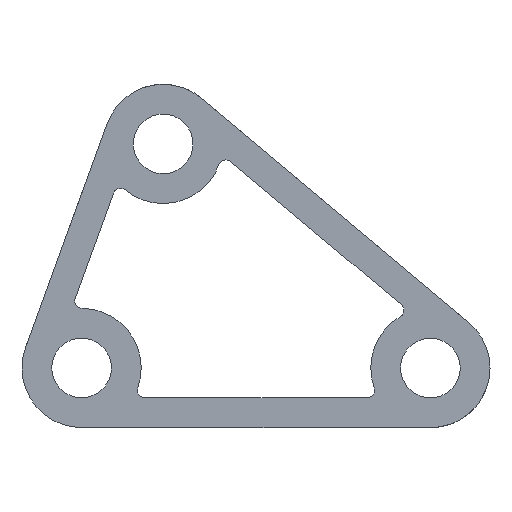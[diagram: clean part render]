
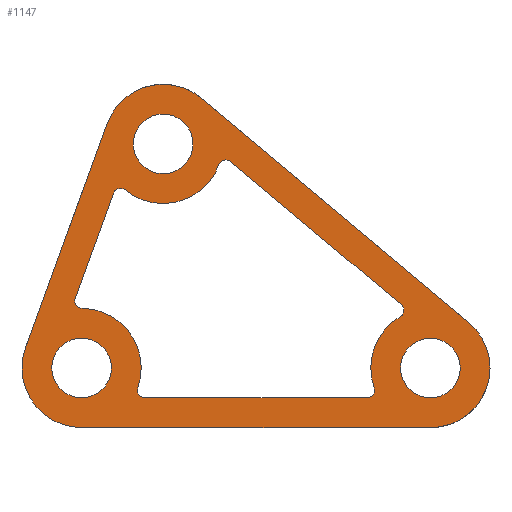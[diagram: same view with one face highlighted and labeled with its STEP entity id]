
A CAD part, left-side view. The second image highlights one B-rep face of the part: STEP entity #1147.
In plain terms, the highlighted planar face has unit normal (-1, 0, 0).
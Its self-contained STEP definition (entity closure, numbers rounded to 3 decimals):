
#50=CARTESIAN_POINT('',(0.,76.828,110.535));
#51=VERTEX_POINT('',#50);
#58=CARTESIAN_POINT('',(0.,-12.857,35.325));
#59=VERTEX_POINT('',#58);
#60=CARTESIAN_POINT('',(0.,-12.857,35.325));
#61=DIRECTION('',(0.,0.766,0.643));
#62=VECTOR('',#61,117.047);
#63=LINE('',#60,#62);
#64=EDGE_CURVE('',#59,#51,#63,.T.);
#106=CARTESIAN_POINT('',(0.,0.,0.));
#107=VERTEX_POINT('',#106);
#114=CARTESIAN_POINT('',(0.,117.047,0.035));
#115=VERTEX_POINT('',#114);
#116=CARTESIAN_POINT('',(0.,117.047,0.035));
#117=DIRECTION('',(0.,-1.,0.));
#118=VECTOR('',#117,117.047);
#119=LINE('',#116,#118);
#120=EDGE_CURVE('',#115,#107,#119,.T.);
#144=CARTESIAN_POINT('',(0.,80.283,91.79));
#145=VERTEX_POINT('',#144);
#154=CARTESIAN_POINT('',(0.,99.076,98.63));
#155=VERTEX_POINT('',#154);
#156=CARTESIAN_POINT('',(0.,89.679,95.21));
#157=DIRECTION('',(1.,0.,-0.));
#158=DIRECTION('',(0.,0.94,0.342));
#159=AXIS2_PLACEMENT_3D('',#156,#157,#158);
#160=CIRCLE('',#159,10.);
#161=EDGE_CURVE('',#155,#145,#160,.T.);
#163=CARTESIAN_POINT('',(0.,89.679,95.21));
#164=DIRECTION('',(1.,0.,-0.));
#165=DIRECTION('',(0.,0.94,0.342));
#166=AXIS2_PLACEMENT_3D('',#163,#164,#165);
#167=CIRCLE('',#166,10.);
#168=EDGE_CURVE('',#145,#155,#167,.T.);
#220=CARTESIAN_POINT('',(0.,107.644,16.614));
#221=VERTEX_POINT('',#220);
#230=CARTESIAN_POINT('',(0.,126.438,23.455));
#231=VERTEX_POINT('',#230);
#232=CARTESIAN_POINT('',(0.,117.041,20.035));
#233=DIRECTION('',(1.,0.,-0.));
#234=DIRECTION('',(0.,0.94,0.342));
#235=AXIS2_PLACEMENT_3D('',#232,#233,#234);
#236=CIRCLE('',#235,10.);
#237=EDGE_CURVE('',#231,#221,#236,.T.);
#239=CARTESIAN_POINT('',(0.,117.041,20.035));
#240=DIRECTION('',(1.,0.,-0.));
#241=DIRECTION('',(0.,0.94,0.342));
#242=AXIS2_PLACEMENT_3D('',#239,#240,#241);
#243=CIRCLE('',#242,10.);
#244=EDGE_CURVE('',#221,#231,#243,.T.);
#296=CARTESIAN_POINT('',(0.,-9.403,16.58));
#297=VERTEX_POINT('',#296);
#306=CARTESIAN_POINT('',(0.,9.391,23.42));
#307=VERTEX_POINT('',#306);
#308=CARTESIAN_POINT('',(0.,-0.006,20.));
#309=DIRECTION('',(1.,0.,-0.));
#310=DIRECTION('',(0.,0.94,0.342));
#311=AXIS2_PLACEMENT_3D('',#308,#309,#310);
#312=CIRCLE('',#311,10.);
#313=EDGE_CURVE('',#307,#297,#312,.T.);
#315=CARTESIAN_POINT('',(0.,-0.006,20.));
#316=DIRECTION('',(1.,0.,-0.));
#317=DIRECTION('',(0.,0.94,0.342));
#318=AXIS2_PLACEMENT_3D('',#315,#316,#317);
#319=CIRCLE('',#318,10.);
#320=EDGE_CURVE('',#297,#307,#319,.T.);
#659=CARTESIAN_POINT('',(0.,135.835,26.875));
#660=VERTEX_POINT('',#659);
#667=CARTESIAN_POINT('',(0.,108.473,102.05));
#668=VERTEX_POINT('',#667);
#669=CARTESIAN_POINT('',(0.,135.835,26.875));
#670=DIRECTION('',(0.,-0.342,0.94));
#671=VECTOR('',#670,80.);
#672=LINE('',#669,#671);
#673=EDGE_CURVE('',#660,#668,#672,.T.);
#707=CARTESIAN_POINT('',(0.,89.679,95.21));
#708=DIRECTION('',(1.,0.,-0.));
#709=DIRECTION('',(0.,0.94,0.342));
#710=AXIS2_PLACEMENT_3D('',#707,#708,#709);
#711=CIRCLE('',#710,20.);
#712=EDGE_CURVE('',#668,#51,#711,.T.);
#723=CARTESIAN_POINT('',(0.,-18.8,13.16));
#724=VERTEX_POINT('',#723);
#733=CARTESIAN_POINT('',(0.,-0.006,20.));
#734=DIRECTION('',(1.,0.,-0.));
#735=DIRECTION('',(0.,0.94,0.342));
#736=AXIS2_PLACEMENT_3D('',#733,#734,#735);
#737=CIRCLE('',#736,20.);
#738=EDGE_CURVE('',#59,#724,#737,.T.);
#748=CARTESIAN_POINT('',(0.,70.947,88.202));
#749=VERTEX_POINT('',#748);
#750=CARTESIAN_POINT('',(0.,67.,89.241));
#751=VERTEX_POINT('',#750);
#752=CARTESIAN_POINT('',(0.,68.606,87.326));
#753=DIRECTION('',(1.,0.,-0.));
#754=DIRECTION('',(0.,0.94,0.342));
#755=AXIS2_PLACEMENT_3D('',#752,#753,#754);
#756=CIRCLE('',#755,2.5);
#757=EDGE_CURVE('',#749,#751,#756,.T.);
#780=CARTESIAN_POINT('',(0.,102.393,79.771));
#781=VERTEX_POINT('',#780);
#782=CARTESIAN_POINT('',(0.,89.679,95.21));
#783=DIRECTION('',(1.,0.,-0.));
#784=DIRECTION('',(0.,0.94,0.342));
#785=AXIS2_PLACEMENT_3D('',#782,#783,#784);
#786=CIRCLE('',#785,20.);
#787=EDGE_CURVE('',#749,#781,#786,.T.);
#805=CARTESIAN_POINT('',(0.,106.332,78.696));
#806=VERTEX_POINT('',#805);
#807=CARTESIAN_POINT('',(0.,103.983,77.841));
#808=DIRECTION('',(1.,0.,-0.));
#809=DIRECTION('',(0.,0.94,0.342));
#810=AXIS2_PLACEMENT_3D('',#807,#808,#809);
#811=CIRCLE('',#810,2.5);
#812=EDGE_CURVE('',#806,#781,#811,.T.);
#830=CARTESIAN_POINT('',(0.,119.183,43.389));
#831=VERTEX_POINT('',#830);
#832=CARTESIAN_POINT('',(0.,119.183,43.389));
#833=DIRECTION('',(0.,-0.342,0.94));
#834=VECTOR('',#833,37.574);
#835=LINE('',#832,#834);
#836=EDGE_CURVE('',#831,#806,#835,.T.);
#854=CARTESIAN_POINT('',(0.,116.857,40.034));
#855=VERTEX_POINT('',#854);
#856=CARTESIAN_POINT('',(0.,116.833,42.534));
#857=DIRECTION('',(1.,0.,-0.));
#858=DIRECTION('',(0.,0.94,0.342));
#859=AXIS2_PLACEMENT_3D('',#856,#857,#858);
#860=CIRCLE('',#859,2.5);
#861=EDGE_CURVE('',#855,#831,#860,.T.);
#879=CARTESIAN_POINT('',(0.,98.187,13.362));
#880=VERTEX_POINT('',#879);
#881=CARTESIAN_POINT('',(0.,117.041,20.035));
#882=DIRECTION('',(1.,0.,-0.));
#883=DIRECTION('',(0.,0.94,0.342));
#884=AXIS2_PLACEMENT_3D('',#881,#882,#883);
#885=CIRCLE('',#884,20.);
#886=EDGE_CURVE('',#855,#880,#885,.T.);
#904=CARTESIAN_POINT('',(0.,95.831,10.028));
#905=VERTEX_POINT('',#904);
#906=CARTESIAN_POINT('',(0.,95.83,12.528));
#907=DIRECTION('',(1.,0.,-0.));
#908=DIRECTION('',(0.,0.94,0.342));
#909=AXIS2_PLACEMENT_3D('',#906,#907,#908);
#910=CIRCLE('',#909,2.5);
#911=EDGE_CURVE('',#905,#880,#910,.T.);
#929=CARTESIAN_POINT('',(0.,21.21,10.006));
#930=VERTEX_POINT('',#929);
#931=CARTESIAN_POINT('',(0.,95.831,10.028));
#932=DIRECTION('',(0.,-1.,0.));
#933=VECTOR('',#932,74.621);
#934=LINE('',#931,#933);
#935=EDGE_CURVE('',#905,#930,#934,.T.);
#953=CARTESIAN_POINT('',(0.,18.86,11.651));
#954=VERTEX_POINT('',#953);
#961=CARTESIAN_POINT('',(0.,18.852,13.339));
#962=VERTEX_POINT('',#961);
#963=CARTESIAN_POINT('',(0.,21.21,12.506));
#964=DIRECTION('',(1.,0.,-0.));
#965=DIRECTION('',(0.,0.94,0.342));
#966=AXIS2_PLACEMENT_3D('',#963,#964,#965);
#967=CIRCLE('',#966,2.5);
#968=EDGE_CURVE('',#962,#954,#967,.T.);
#985=CARTESIAN_POINT('',(0.,10.159,37.224));
#986=VERTEX_POINT('',#985);
#987=CARTESIAN_POINT('',(0.,-0.006,20.));
#988=DIRECTION('',(1.,0.,-0.));
#989=DIRECTION('',(0.,0.94,0.342));
#990=AXIS2_PLACEMENT_3D('',#987,#988,#989);
#991=CIRCLE('',#990,20.);
#992=EDGE_CURVE('',#962,#986,#991,.T.);
#1010=CARTESIAN_POINT('',(0.,9.08,38.522));
#1011=VERTEX_POINT('',#1010);
#1018=CARTESIAN_POINT('',(0.,9.823,41.293));
#1019=VERTEX_POINT('',#1018);
#1020=CARTESIAN_POINT('',(0.,11.429,39.378));
#1021=DIRECTION('',(1.,0.,-0.));
#1022=DIRECTION('',(0.,0.94,0.342));
#1023=AXIS2_PLACEMENT_3D('',#1020,#1021,#1022);
#1024=CIRCLE('',#1023,2.5);
#1025=EDGE_CURVE('',#1019,#1011,#1024,.T.);
#1042=CARTESIAN_POINT('',(0.,9.823,41.293));
#1043=DIRECTION('',(0.,0.766,0.643));
#1044=VECTOR('',#1043,74.621);
#1045=LINE('',#1042,#1044);
#1046=EDGE_CURVE('',#1019,#751,#1045,.T.);
#1076=CARTESIAN_POINT('',(0.,117.041,20.035));
#1077=DIRECTION('',(1.,0.,-0.));
#1078=DIRECTION('',(0.,0.94,0.342));
#1079=AXIS2_PLACEMENT_3D('',#1076,#1077,#1078);
#1080=CIRCLE('',#1079,20.);
#1081=EDGE_CURVE('',#115,#660,#1080,.T.);
#1087=CARTESIAN_POINT('',(0.,122.154,64.463));
#1088=DIRECTION('',(1.,0.,0.));
#1089=DIRECTION('',(0.,-0.342,0.94));
#1090=AXIS2_PLACEMENT_3D('',#1087,#1088,#1089);
#1091=PLANE('',#1090);
#1092=ORIENTED_EDGE('',*,*,#757,.T.);
#1093=ORIENTED_EDGE('',*,*,#1046,.F.);
#1094=ORIENTED_EDGE('',*,*,#1025,.T.);
#1095=CARTESIAN_POINT('',(0.,11.429,39.378));
#1096=DIRECTION('',(1.,0.,-0.));
#1097=DIRECTION('',(0.,0.94,0.342));
#1098=AXIS2_PLACEMENT_3D('',#1095,#1096,#1097);
#1099=CIRCLE('',#1098,2.5);
#1100=EDGE_CURVE('',#1011,#986,#1099,.T.);
#1101=ORIENTED_EDGE('',*,*,#1100,.T.);
#1102=ORIENTED_EDGE('',*,*,#992,.F.);
#1103=ORIENTED_EDGE('',*,*,#968,.T.);
#1104=CARTESIAN_POINT('',(0.,21.21,12.506));
#1105=DIRECTION('',(1.,0.,-0.));
#1106=DIRECTION('',(0.,0.94,0.342));
#1107=AXIS2_PLACEMENT_3D('',#1104,#1105,#1106);
#1108=CIRCLE('',#1107,2.5);
#1109=EDGE_CURVE('',#954,#930,#1108,.T.);
#1110=ORIENTED_EDGE('',*,*,#1109,.T.);
#1111=ORIENTED_EDGE('',*,*,#935,.F.);
#1112=ORIENTED_EDGE('',*,*,#911,.T.);
#1113=ORIENTED_EDGE('',*,*,#886,.F.);
#1114=ORIENTED_EDGE('',*,*,#861,.T.);
#1115=ORIENTED_EDGE('',*,*,#836,.T.);
#1116=ORIENTED_EDGE('',*,*,#812,.T.);
#1117=ORIENTED_EDGE('',*,*,#787,.F.);
#1118=EDGE_LOOP('',(#1092,#1093,#1094,#1101,#1102,#1103,#1110,#1111,#1112,#1113,#1114,#1115,#1116,#1117));
#1119=FACE_BOUND('',#1118,.T.);
#1120=ORIENTED_EDGE('',*,*,#313,.T.);
#1121=ORIENTED_EDGE('',*,*,#320,.T.);
#1122=EDGE_LOOP('',(#1120,#1121));
#1123=FACE_BOUND('',#1122,.T.);
#1124=ORIENTED_EDGE('',*,*,#237,.T.);
#1125=ORIENTED_EDGE('',*,*,#244,.T.);
#1126=EDGE_LOOP('',(#1124,#1125));
#1127=FACE_BOUND('',#1126,.T.);
#1128=ORIENTED_EDGE('',*,*,#161,.T.);
#1129=ORIENTED_EDGE('',*,*,#168,.T.);
#1130=EDGE_LOOP('',(#1128,#1129));
#1131=FACE_BOUND('',#1130,.T.);
#1132=ORIENTED_EDGE('',*,*,#673,.F.);
#1133=ORIENTED_EDGE('',*,*,#1081,.F.);
#1134=ORIENTED_EDGE('',*,*,#120,.T.);
#1135=CARTESIAN_POINT('',(0.,-0.006,20.));
#1136=DIRECTION('',(1.,0.,-0.));
#1137=DIRECTION('',(0.,0.94,0.342));
#1138=AXIS2_PLACEMENT_3D('',#1135,#1136,#1137);
#1139=CIRCLE('',#1138,20.);
#1140=EDGE_CURVE('',#724,#107,#1139,.T.);
#1141=ORIENTED_EDGE('',*,*,#1140,.F.);
#1142=ORIENTED_EDGE('',*,*,#738,.F.);
#1143=ORIENTED_EDGE('',*,*,#64,.T.);
#1144=ORIENTED_EDGE('',*,*,#712,.F.);
#1145=EDGE_LOOP('',(#1132,#1133,#1134,#1141,#1142,#1143,#1144));
#1146=FACE_BOUND('',#1145,.T.);
#1147=ADVANCED_FACE('',(#1119,#1123,#1127,#1131,#1146),#1091,.F.);
